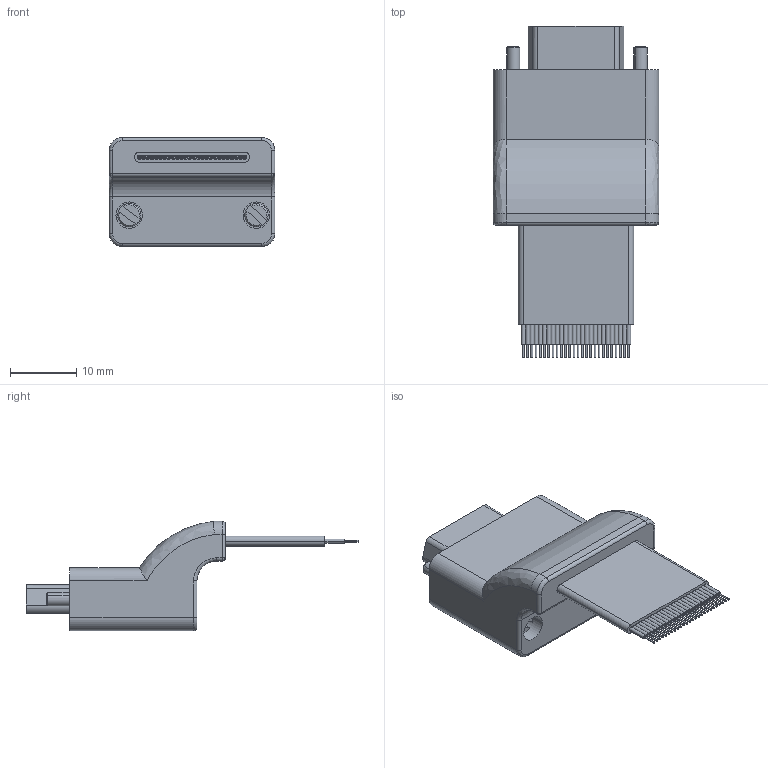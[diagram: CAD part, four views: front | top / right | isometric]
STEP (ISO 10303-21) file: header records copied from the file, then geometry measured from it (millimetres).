
FILE_DESCRIPTION (( 'STEP AP214' ), '1' );
FILE_NAME ('ICL-9.STEP', '2023-06-21T16:57:12', ( '' ), ( '' ), 'SwSTEP 2.0', 'SolidWorks 2021', '' );
FILE_SCHEMA (( 'AUTOMOTIVE_DESIGN' ));
Length unit declared in the file: millimetre
Products named in the file (5): ICL-9; ICL Cable_90201_26; ICL-9-Mold; HDR-E26MAGI+; ICL-4 & 5-Screw
Assembly tree (5 placements, depth 2):
  ICL-9
    HDR-E26MAGI+
    ICL-9-Mold
    ICL-4 & 5-Screw  x2
    ICL Cable_90201_26
Bounding box: 25 x 50.1 x 16.5 mm (x, y, z)
Volume: 6331.9 mm3; surface area: 5554.8 mm2
Topology: 57 solids, 57 shells, 1006 faces, 2381 edges, 1574 vertices
Faces by surface type: plane 802, cylinder 172, cone 20, bspline 12
Entity records: 31471 total; most frequent: CARTESIAN_POINT 5405, ORIENTED_EDGE 4622, DIRECTION 4547, EDGE_CURVE 2311, VECTOR 1943, LINE 1943, VERTEX_POINT 1532, AXIS2_PLACEMENT_3D 1302
